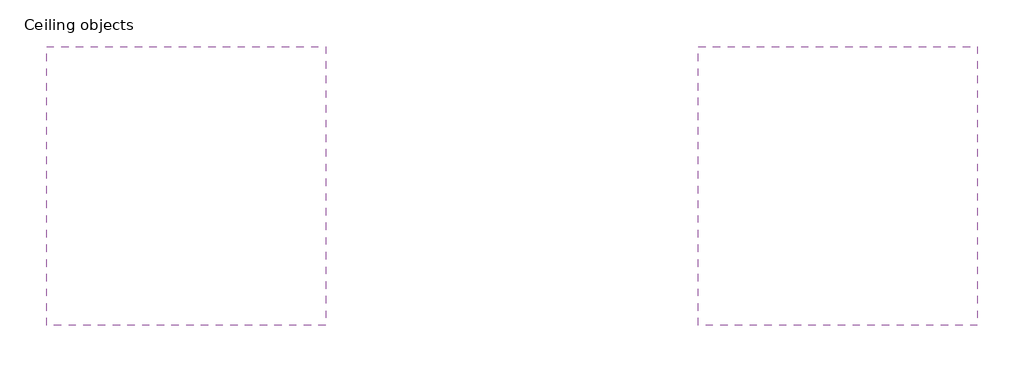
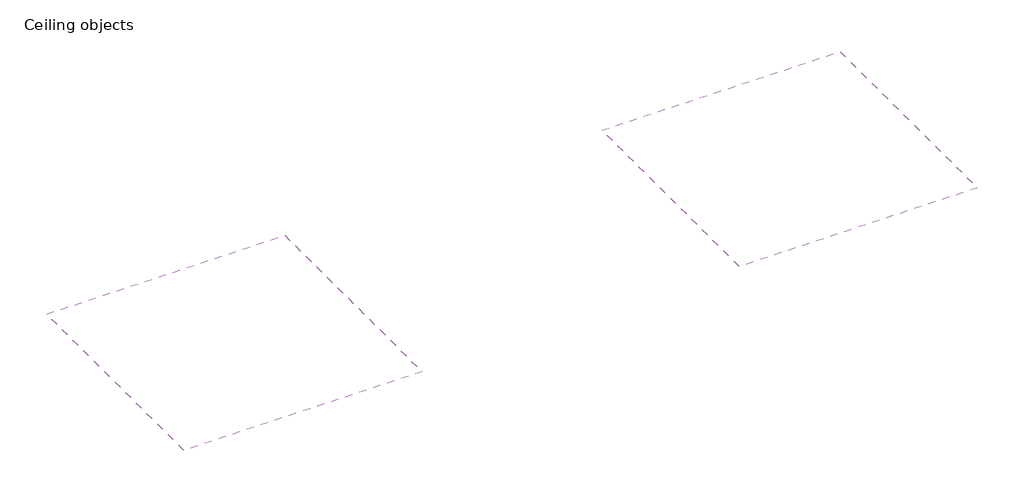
# One storey: 2 coverings.
"""IFC4 building model written with IfcOpenShell, lengths in millimetres."""

from ifc_helpers import new_model, si_unit, frame, origin, place, context, project, spatial, polyline, outline, extrude, element, save

model = new_model("IFC4")

# Units and contexts
model_context = context("Model", 3, world=origin())
ifc_project = project(units=[si_unit("LENGTHUNIT", "METRE", prefix="MILLI")], contexts=[model_context])

# Site, building, storey
site = spatial("IfcSite", under=ifc_project)
building = spatial("IfcBuilding", under=site)
storey = spatial("IfcBuildingStorey", under=building, Name="Ceiling objects", Elevation=0.0)

# Coverings
placement = place(None, origin())
element("IfcCovering", 1, ObjectType="Knauf Danoline Stratopanel G8-15-20 1200x2500x12.5_FF", at=placement, inside=storey, context=model_context, shape_type="SweptSolid", body=[
    extrude(outline(polyline([(-4783.0103193, 8117.0281757), (-4783.0103193, 5117.0281757), (-7783.0103193, 5117.0281757), (-7783.0103193, 8117.0281757), (-4783.0103193, 8117.0281757)])), frame((0.0, 0.0, 2600.0), z_axis=(0.0, 0.0, 1.0), x_axis=(1.0, 0.0, 0.0)), (0.0, 0.0, 1.0), 66.5000021),
])
element("IfcCovering", 2, ObjectType="Knauf Danoline Stratopanel G12-20-35 1200x1875x12.5_FF", at=placement, inside=storey, context=model_context, shape_type="SweptSolid", body=[
    extrude(outline(polyline([(2216.9899047, 8117.0281757), (2216.9899047, 5117.0281757), (-783.0100953, 5117.0281757), (-783.0100953, 8117.0281757), (2216.9899047, 8117.0281757)])), frame((0.0, 0.0, 2600.0), z_axis=(0.0, 0.0, 1.0), x_axis=(1.0, 0.0, 0.0)), (0.0, 0.0, 1.0), 66.5000021),
])

save(model, "model.ifc")
